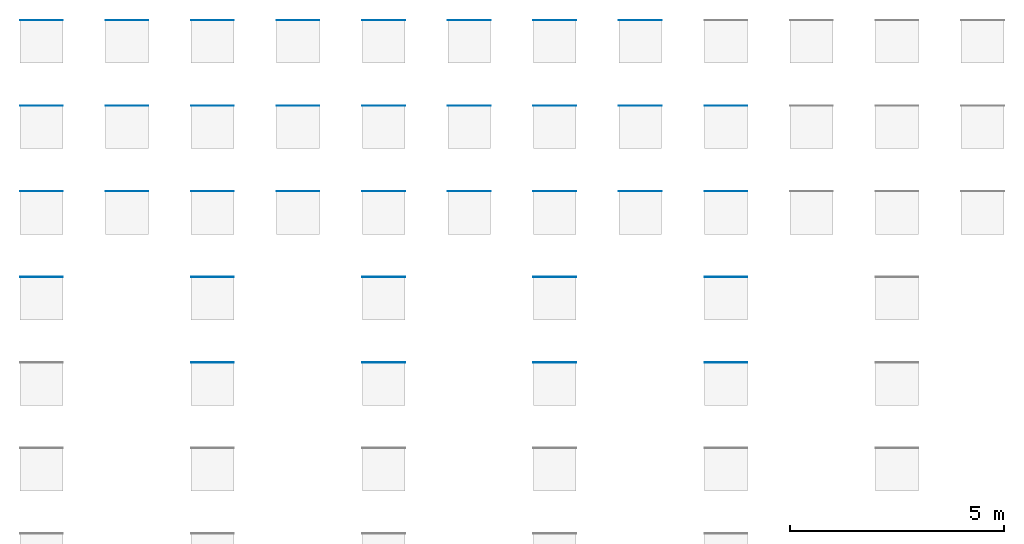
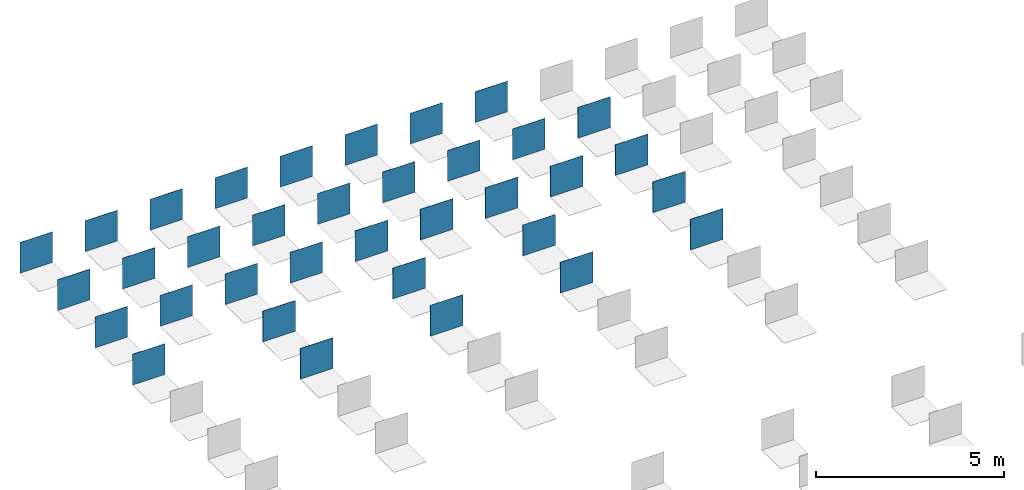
# One storey, part 2 of 6: 35 walls.
"""IFC2X3 building model written with IfcOpenShell, lengths in millimetres."""

from ifc_helpers import new_model, entity, si_unit, converted_unit, derived_unit, direction, frame, frame_2d, origin, place, context, subcontext, project, spatial, rectangle, extrude, material, layer, layer_set, layer_usage, type_object, element, save


model = new_model("IFC2X3")

# Units and contexts
model_context = context("Model", 3, precision=0.01, world=origin(), true_north=direction((6.12303176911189e-17, 1.0)))
body_context = subcontext(model_context, "Body", "Model", "MODEL_VIEW")
ifc_project = project(units=[si_unit("LENGTHUNIT", "METRE", prefix="MILLI"), si_unit("AREAUNIT", "SQUARE_METRE"), si_unit("VOLUMEUNIT", "CUBIC_METRE"), converted_unit("PLANEANGLEUNIT", "DEGREE", entity("IfcRatioMeasure", 0.0174532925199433), si_unit("PLANEANGLEUNIT", "RADIAN"), dimensions=[0, 0, 0, 0, 0, 0, 0]), si_unit("MASSUNIT", "GRAM", prefix="KILO"), derived_unit("MASSDENSITYUNIT", [(si_unit("MASSUNIT", "GRAM", prefix="KILO"), 1), (si_unit("LENGTHUNIT", "METRE"), -3)]), derived_unit("MOMENTOFINERTIAUNIT", [(si_unit("LENGTHUNIT", "METRE"), 4)]), si_unit("TIMEUNIT", "SECOND"), si_unit("FREQUENCYUNIT", "HERTZ"), si_unit("THERMODYNAMICTEMPERATUREUNIT", "DEGREE_CELSIUS"), derived_unit("THERMALTRANSMITTANCEUNIT", [(si_unit("MASSUNIT", "GRAM", prefix="KILO"), 1), (si_unit("THERMODYNAMICTEMPERATUREUNIT", "KELVIN"), -1), (si_unit("TIMEUNIT", "SECOND"), -3)]), derived_unit("VOLUMETRICFLOWRATEUNIT", [(si_unit("LENGTHUNIT", "METRE"), 3), (si_unit("TIMEUNIT", "SECOND"), -1)]), si_unit("ELECTRICCURRENTUNIT", "AMPERE"), si_unit("ELECTRICVOLTAGEUNIT", "VOLT"), si_unit("POWERUNIT", "WATT"), si_unit("FORCEUNIT", "NEWTON", prefix="KILO"), si_unit("ILLUMINANCEUNIT", "LUX"), si_unit("LUMINOUSFLUXUNIT", "LUMEN"), si_unit("LUMINOUSINTENSITYUNIT", "CANDELA"), derived_unit("USERDEFINED", [(si_unit("MASSUNIT", "GRAM", prefix="KILO"), -1), (si_unit("LENGTHUNIT", "METRE"), -2), (si_unit("TIMEUNIT", "SECOND"), 3), (si_unit("LUMINOUSFLUXUNIT", "LUMEN"), 1)]), derived_unit("LINEARVELOCITYUNIT", [(si_unit("LENGTHUNIT", "METRE"), 1), (si_unit("TIMEUNIT", "SECOND"), -1)]), si_unit("PRESSUREUNIT", "PASCAL"), derived_unit("USERDEFINED", [(si_unit("LENGTHUNIT", "METRE"), -2), (si_unit("MASSUNIT", "GRAM", prefix="KILO"), 1), (si_unit("TIMEUNIT", "SECOND"), -2)]), derived_unit("LINEARFORCEUNIT", [(si_unit("MASSUNIT", "GRAM", prefix="KILO"), 1), (si_unit("LENGTHUNIT", "METRE"), 1), (si_unit("TIMEUNIT", "SECOND"), -2), (si_unit("LENGTHUNIT", "METRE"), -1)]), derived_unit("PLANARFORCEUNIT", [(si_unit("MASSUNIT", "GRAM", prefix="KILO"), 1), (si_unit("LENGTHUNIT", "METRE"), 1), (si_unit("TIMEUNIT", "SECOND"), -2), (si_unit("LENGTHUNIT", "METRE"), -2)])], contexts=[model_context])

# Site, building, storey
site_placement = place(None, origin())
site = spatial("IfcSite", under=ifc_project, at=site_placement, Name="Default", CompositionType="ELEMENT")
building_placement = place(site_placement, origin())
building = spatial("IfcBuilding", under=site, at=building_placement, CompositionType="ELEMENT")
storey_placement = place(building_placement, origin())
storey = spatial("IfcBuildingStorey", under=building, at=storey_placement, Name="Level 1", CompositionType="ELEMENT", Elevation=0.0)

# Walls
ifc_material_1 = material(Name="REVIGRÉS-URBAN-BASE-30X30-RECT-ANTRACITE")
ifc_layer_1 = layer(ifc_material_1, 7.7)
ifc_layer_set_1 = layer_set([ifc_layer_1], Name="Basic Wall:REVIGRÉS-URBAN-BASE-29,5X29,5-RECT-ANTRACITE")
ifc_layer_usage_1 = layer_usage(ifc_layer_set_1, "AXIS2", "POSITIVE", -3.85)
wall_type_1 = type_object("IfcWallType", Name="Basic Wall:REVIGRÉS-URBAN-BASE-29,5X29,5-RECT-ANTRACITE", PredefinedType="STANDARD", material=ifc_layer_set_1)
wall_1_placement = place(storey_placement, frame((2778.64271399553, -1188.07420263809, 0.0)))
element("IfcWallStandardCase", 1, at=wall_1_placement, inside=storey, type_object=wall_type_1, material=ifc_layer_usage_1, Name="Basic Wall:REVIGRÉS-URBAN-BASE-29,5X29,5-RECT-ANTRACITE", ObjectType="Basic Wall:REVIGRÉS-URBAN-BASE-29,5X29,5-RECT-ANTRACITE", context=body_context, shape_type="SweptSolid", body=[
    extrude(rectangle(XDim=1000.0, YDim=7.69999999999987, at=frame_2d((500.0, 0.0), x_axis=(-1.0, 0.0))), origin(), (0.0, 0.0, 1.0), 1000.0),
])
ifc_material_2 = material(Name="REVIGRÉS-URBAN-BASE-30X30-NAT-ANTRACITE")
ifc_layer_2 = layer(ifc_material_2, 8.5)
ifc_layer_set_2 = layer_set([ifc_layer_2], Name="Basic Wall:REVIGRÉS-URBAN-BASE-30X30-NAT-ANTRACITE")
ifc_layer_usage_2 = layer_usage(ifc_layer_set_2, "AXIS2", "POSITIVE", -4.25)
wall_type_2 = type_object("IfcWallType", Name="Basic Wall:REVIGRÉS-URBAN-BASE-30X30-NAT-ANTRACITE", PredefinedType="STANDARD", material=ifc_layer_set_2)
wall_2_placement = place(storey_placement, frame((4778.64271399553, -1187.6742026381, 0.0)))
element("IfcWallStandardCase", 2, at=wall_2_placement, inside=storey, type_object=wall_type_2, material=ifc_layer_usage_2, Name="Basic Wall:REVIGRÉS-URBAN-BASE-30X30-NAT-ANTRACITE", ObjectType="Basic Wall:REVIGRÉS-URBAN-BASE-30X30-NAT-ANTRACITE", context=body_context, shape_type="SweptSolid", body=[
    extrude(rectangle(XDim=1000.0, YDim=8.49999999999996, at=frame_2d((500.0, 0.0), x_axis=(-1.0, 0.0))), origin(), (0.0, 0.0, 1.0), 1000.0),
])
ifc_material_3 = material(Name="REVIGRÉS-URBAN-BASE-30X30-RECT-BONE")
ifc_layer_3 = layer(ifc_material_3, 7.7)
ifc_layer_set_3 = layer_set([ifc_layer_3], Name="Basic Wall:REVIGRÉS-URBAN-BASE-29,5X29,5-RECT-BONE")
ifc_layer_usage_3 = layer_usage(ifc_layer_set_3, "AXIS2", "POSITIVE", -3.85)
wall_type_3 = type_object("IfcWallType", Name="Basic Wall:REVIGRÉS-URBAN-BASE-29,5X29,5-RECT-BONE", PredefinedType="STANDARD", material=ifc_layer_set_3)
wall_3_placement = place(storey_placement, frame((6778.64271399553, -1188.07420263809, 0.0)))
element("IfcWallStandardCase", 3, at=wall_3_placement, inside=storey, type_object=wall_type_3, material=ifc_layer_usage_3, Name="Basic Wall:REVIGRÉS-URBAN-BASE-29,5X29,5-RECT-BONE", ObjectType="Basic Wall:REVIGRÉS-URBAN-BASE-29,5X29,5-RECT-BONE", context=body_context, shape_type="SweptSolid", body=[
    extrude(rectangle(XDim=1000.0, YDim=7.69999999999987, at=frame_2d((500.0, 0.0), x_axis=(-1.0, 0.0))), origin(), (0.0, 0.0, 1.0), 1000.0),
])
ifc_material_4 = material(Name="REVIGRÉS-URBAN-BASE-30X30-NAT-BONE")
ifc_layer_4 = layer(ifc_material_4, 8.5)
ifc_layer_set_4 = layer_set([ifc_layer_4], Name="Basic Wall:REVIGRÉS-URBAN-BASE-30X30-NAT-BONE")
ifc_layer_usage_4 = layer_usage(ifc_layer_set_4, "AXIS2", "POSITIVE", -4.25)
wall_type_4 = type_object("IfcWallType", Name="Basic Wall:REVIGRÉS-URBAN-BASE-30X30-NAT-BONE", PredefinedType="STANDARD", material=ifc_layer_set_4)
wall_4_placement = place(storey_placement, frame((8778.64271399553, -1187.67420263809, 0.0)))
element("IfcWallStandardCase", 4, at=wall_4_placement, inside=storey, type_object=wall_type_4, material=ifc_layer_usage_4, Name="Basic Wall:REVIGRÉS-URBAN-BASE-30X30-NAT-BONE", ObjectType="Basic Wall:REVIGRÉS-URBAN-BASE-30X30-NAT-BONE", context=body_context, shape_type="SweptSolid", body=[
    extrude(rectangle(XDim=999.999999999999, YDim=8.49999999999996, at=frame_2d((499.999999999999, 0.0), x_axis=(-1.0, 0.0))), origin(), (0.0, 0.0, 1.0), 1000.0),
])
ifc_material_5 = material(Name="REVIGRÉS-URBAN-BASE-30X30-RECT-CRAFT")
ifc_layer_5 = layer(ifc_material_5, 7.7)
ifc_layer_set_5 = layer_set([ifc_layer_5], Name="Basic Wall:REVIGRÉS-URBAN-BASE-29,5X29,5-RECT-CRAFT")
ifc_layer_usage_5 = layer_usage(ifc_layer_set_5, "AXIS2", "POSITIVE", -3.85)
wall_type_5 = type_object("IfcWallType", Name="Basic Wall:REVIGRÉS-URBAN-BASE-29,5X29,5-RECT-CRAFT", PredefinedType="STANDARD", material=ifc_layer_set_5)
wall_5_placement = place(storey_placement, frame((10778.6427139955, -1188.07420263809, 0.0)))
element("IfcWallStandardCase", 5, at=wall_5_placement, inside=storey, type_object=wall_type_5, material=ifc_layer_usage_5, Name="Basic Wall:REVIGRÉS-URBAN-BASE-29,5X29,5-RECT-CRAFT", ObjectType="Basic Wall:REVIGRÉS-URBAN-BASE-29,5X29,5-RECT-CRAFT", context=body_context, shape_type="SweptSolid", body=[
    extrude(rectangle(XDim=1000.0, YDim=7.69999999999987, at=frame_2d((500.000000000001, 0.0), x_axis=(-1.0, 0.0))), origin(), (0.0, 0.0, 1.0), 1000.0),
])
ifc_material_6 = material(Name="REVIGRÉS-URBAN-BASE-30X30-NAT-CRAFT")
ifc_layer_6 = layer(ifc_material_6, 8.5)
ifc_layer_set_6 = layer_set([ifc_layer_6], Name="Basic Wall:REVIGRÉS-URBAN-BASE-30X30-NAT-CRAFT")
ifc_layer_usage_6 = layer_usage(ifc_layer_set_6, "AXIS2", "POSITIVE", -4.25)
wall_type_6 = type_object("IfcWallType", Name="Basic Wall:REVIGRÉS-URBAN-BASE-30X30-NAT-CRAFT", PredefinedType="STANDARD", material=ifc_layer_set_6)
wall_6_placement = place(storey_placement, frame((12778.6427139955, -1187.67420263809, 0.0)))
element("IfcWallStandardCase", 6, at=wall_6_placement, inside=storey, type_object=wall_type_6, material=ifc_layer_usage_6, Name="Basic Wall:REVIGRÉS-URBAN-BASE-30X30-NAT-CRAFT", ObjectType="Basic Wall:REVIGRÉS-URBAN-BASE-30X30-NAT-CRAFT", context=body_context, shape_type="SweptSolid", body=[
    extrude(rectangle(XDim=1000.0, YDim=8.49999999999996, at=frame_2d((500.0, 0.0), x_axis=(-1.0, 0.0))), origin(), (0.0, 0.0, 1.0), 1000.0),
])
ifc_material_7 = material(Name="REVIGRÉS-URBAN-BASE-30X30-RECT-FOG")
ifc_layer_7 = layer(ifc_material_7, 7.7)
ifc_layer_set_7 = layer_set([ifc_layer_7], Name="Basic Wall:REVIGRÉS-URBAN-BASE-29,5X29,5-RECT-FOG")
ifc_layer_usage_7 = layer_usage(ifc_layer_set_7, "AXIS2", "POSITIVE", -3.85)
wall_type_7 = type_object("IfcWallType", Name="Basic Wall:REVIGRÉS-URBAN-BASE-29,5X29,5-RECT-FOG", PredefinedType="STANDARD", material=ifc_layer_set_7)
wall_7_placement = place(storey_placement, frame((14778.6427139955, -1188.07420263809, 0.0)))
element("IfcWallStandardCase", 7, at=wall_7_placement, inside=storey, type_object=wall_type_7, material=ifc_layer_usage_7, Name="Basic Wall:REVIGRÉS-URBAN-BASE-29,5X29,5-RECT-FOG", ObjectType="Basic Wall:REVIGRÉS-URBAN-BASE-29,5X29,5-RECT-FOG", context=body_context, shape_type="SweptSolid", body=[
    extrude(rectangle(XDim=1000.0, YDim=7.69999999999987, at=frame_2d((500.0, 0.0), x_axis=(-1.0, 0.0))), origin(), (0.0, 0.0, 1.0), 1000.0),
])
ifc_material_8 = material(Name="REVIGRÉS-URBAN-BASE-30X30-NAT-FOG")
ifc_layer_8 = layer(ifc_material_8, 8.5)
ifc_layer_set_8 = layer_set([ifc_layer_8], Name="Basic Wall:REVIGRÉS-URBAN-BASE-30X30-NAT-FOG")
ifc_layer_usage_8 = layer_usage(ifc_layer_set_8, "AXIS2", "POSITIVE", -4.25)
wall_type_8 = type_object("IfcWallType", Name="Basic Wall:REVIGRÉS-URBAN-BASE-30X30-NAT-FOG", PredefinedType="STANDARD", material=ifc_layer_set_8)
wall_8_placement = place(storey_placement, frame((16778.6427139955, -1187.67420263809, 0.0)))
element("IfcWallStandardCase", 8, at=wall_8_placement, inside=storey, type_object=wall_type_8, material=ifc_layer_usage_8, Name="Basic Wall:REVIGRÉS-URBAN-BASE-30X30-NAT-FOG", ObjectType="Basic Wall:REVIGRÉS-URBAN-BASE-30X30-NAT-FOG", context=body_context, shape_type="SweptSolid", body=[
    extrude(rectangle(XDim=1000.0, YDim=8.49999999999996, at=frame_2d((500.0, 0.0), x_axis=(-1.0, 0.0))), origin(), (0.0, 0.0, 1.0), 1000.0),
])
ifc_material_9 = material(Name="REVIGRÉS-URBAN-BASE-30X60-RECT-ANTRACITE")
ifc_layer_9 = layer(ifc_material_9, 8.5)
ifc_layer_set_9 = layer_set([ifc_layer_9], Name="Basic Wall:REVIGRÉS-URBAN-BASE-29,5X59,2-RECT-ANTRACITE")
ifc_layer_usage_9 = layer_usage(ifc_layer_set_9, "AXIS2", "POSITIVE", -4.25)
wall_type_9 = type_object("IfcWallType", Name="Basic Wall:REVIGRÉS-URBAN-BASE-29,5X59,2-RECT-ANTRACITE", PredefinedType="STANDARD", material=ifc_layer_set_9)
wall_9_placement = place(storey_placement, frame((2778.64271399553, -3187.67420263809, 0.0)))
element("IfcWallStandardCase", 9, at=wall_9_placement, inside=storey, type_object=wall_type_9, material=ifc_layer_usage_9, Name="Basic Wall:REVIGRÉS-URBAN-BASE-29,5X59,2-RECT-ANTRACITE", ObjectType="Basic Wall:REVIGRÉS-URBAN-BASE-29,5X59,2-RECT-ANTRACITE", context=body_context, shape_type="SweptSolid", body=[
    extrude(rectangle(XDim=1000.0, YDim=8.50000000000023, at=frame_2d((500.0, 0.0), x_axis=(-1.0, 0.0))), origin(), (0.0, 0.0, 1.0), 1000.0),
])
ifc_material_10 = material(Name="REVIGRÉS-URBAN-BASE-30X60-RECT-BONE")
ifc_layer_10 = layer(ifc_material_10, 8.5)
ifc_layer_set_10 = layer_set([ifc_layer_10], Name="Basic Wall:REVIGRÉS-URBAN-BASE-29,5X59,2-RECT-BONE")
ifc_layer_usage_10 = layer_usage(ifc_layer_set_10, "AXIS2", "POSITIVE", -4.25)
wall_type_10 = type_object("IfcWallType", Name="Basic Wall:REVIGRÉS-URBAN-BASE-29,5X59,2-RECT-BONE", PredefinedType="STANDARD", material=ifc_layer_set_10)
wall_10_placement = place(storey_placement, frame((6778.64271399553, -3187.67420263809, 0.0)))
element("IfcWallStandardCase", 10, at=wall_10_placement, inside=storey, type_object=wall_type_10, material=ifc_layer_usage_10, Name="Basic Wall:REVIGRÉS-URBAN-BASE-29,5X59,2-RECT-BONE", ObjectType="Basic Wall:REVIGRÉS-URBAN-BASE-29,5X59,2-RECT-BONE", context=body_context, shape_type="SweptSolid", body=[
    extrude(rectangle(XDim=1000.0, YDim=8.50000000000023, at=frame_2d((500.0, 0.0), x_axis=(-1.0, 0.0))), origin(), (0.0, 0.0, 1.0), 1000.0),
])
ifc_material_11 = material(Name="REVIGRÉS-URBAN-BASE-30X60-RECT-CRAFT")
ifc_layer_11 = layer(ifc_material_11, 8.5)
ifc_layer_set_11 = layer_set([ifc_layer_11], Name="Basic Wall:REVIGRÉS-URBAN-BASE-29,5X59,2-RECT-CRAFT")
ifc_layer_usage_11 = layer_usage(ifc_layer_set_11, "AXIS2", "POSITIVE", -4.25)
wall_type_11 = type_object("IfcWallType", Name="Basic Wall:REVIGRÉS-URBAN-BASE-29,5X59,2-RECT-CRAFT", PredefinedType="STANDARD", material=ifc_layer_set_11)
wall_11_placement = place(storey_placement, frame((10778.6427139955, -3187.67420263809, 0.0)))
element("IfcWallStandardCase", 11, at=wall_11_placement, inside=storey, type_object=wall_type_11, material=ifc_layer_usage_11, Name="Basic Wall:REVIGRÉS-URBAN-BASE-29,5X59,2-RECT-CRAFT", ObjectType="Basic Wall:REVIGRÉS-URBAN-BASE-29,5X59,2-RECT-CRAFT", context=body_context, shape_type="SweptSolid", body=[
    extrude(rectangle(XDim=1000.0, YDim=8.50000000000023, at=frame_2d((500.000000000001, 0.0), x_axis=(-1.0, 0.0))), origin(), (0.0, 0.0, 1.0), 1000.0),
])
ifc_material_12 = material(Name="REVIGRÉS-URBAN-BASE-30X60-RECT-FOG")
ifc_layer_12 = layer(ifc_material_12, 8.5)
ifc_layer_set_12 = layer_set([ifc_layer_12], Name="Basic Wall:REVIGRÉS-URBAN-BASE-29,5X59,2-RECT-FOG")
ifc_layer_usage_12 = layer_usage(ifc_layer_set_12, "AXIS2", "POSITIVE", -4.25)
wall_type_12 = type_object("IfcWallType", Name="Basic Wall:REVIGRÉS-URBAN-BASE-29,5X59,2-RECT-FOG", PredefinedType="STANDARD", material=ifc_layer_set_12)
wall_12_placement = place(storey_placement, frame((14778.6427139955, -3187.67420263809, 0.0)))
element("IfcWallStandardCase", 12, at=wall_12_placement, inside=storey, type_object=wall_type_12, material=ifc_layer_usage_12, Name="Basic Wall:REVIGRÉS-URBAN-BASE-29,5X59,2-RECT-FOG", ObjectType="Basic Wall:REVIGRÉS-URBAN-BASE-29,5X59,2-RECT-FOG", context=body_context, shape_type="SweptSolid", body=[
    extrude(rectangle(XDim=1000.0, YDim=8.50000000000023, at=frame_2d((500.0, 0.0), x_axis=(-1.0, 0.0))), origin(), (0.0, 0.0, 1.0), 1000.0),
])
ifc_material_13 = material(Name="REVIGRÉS-URBAN-BASE-30X60-RECT-GRIS")
ifc_layer_13 = layer(ifc_material_13, 8.5)
ifc_layer_set_13 = layer_set([ifc_layer_13], Name="Basic Wall:REVIGRÉS-URBAN-BASE-29,5X59,2-RECT-GRIS")
ifc_layer_usage_13 = layer_usage(ifc_layer_set_13, "AXIS2", "POSITIVE", -4.25)
wall_type_13 = type_object("IfcWallType", Name="Basic Wall:REVIGRÉS-URBAN-BASE-29,5X59,2-RECT-GRIS", PredefinedType="STANDARD", material=ifc_layer_set_13)
wall_13_placement = place(storey_placement, frame((18778.6427139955, -3187.67420263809, 0.0)))
element("IfcWallStandardCase", 13, at=wall_13_placement, inside=storey, type_object=wall_type_13, material=ifc_layer_usage_13, Name="Basic Wall:REVIGRÉS-URBAN-BASE-29,5X59,2-RECT-GRIS", ObjectType="Basic Wall:REVIGRÉS-URBAN-BASE-29,5X59,2-RECT-GRIS", context=body_context, shape_type="SweptSolid", body=[
    extrude(rectangle(XDim=1000.0, YDim=8.50000000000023, at=frame_2d((500.0, 0.0), x_axis=(-1.0, 0.0))), origin(), (0.0, 0.0, 1.0), 1000.0),
])
ifc_material_14 = material(Name="REVIGRÉS-URBAN-BASE-45X45-RECT-ANTRACITE")
ifc_layer_14 = layer(ifc_material_14, 8.5)
ifc_layer_set_14 = layer_set([ifc_layer_14], Name="Basic Wall:REVIGRÉS-URBAN-BASE-44,35X44,35-RECT-ANTRACITE")
ifc_layer_usage_14 = layer_usage(ifc_layer_set_14, "AXIS2", "POSITIVE", -4.25)
wall_type_14 = type_object("IfcWallType", Name="Basic Wall:REVIGRÉS-URBAN-BASE-44,35X44,35-RECT-ANTRACITE", PredefinedType="STANDARD", material=ifc_layer_set_14)
wall_14_placement = place(storey_placement, frame((2778.64271399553, -5187.67420263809, 0.0)))
element("IfcWallStandardCase", 14, at=wall_14_placement, inside=storey, type_object=wall_type_14, material=ifc_layer_usage_14, Name="Basic Wall:REVIGRÉS-URBAN-BASE-44,35X44,35-RECT-ANTRACITE", ObjectType="Basic Wall:REVIGRÉS-URBAN-BASE-44,35X44,35-RECT-ANTRACITE", context=body_context, shape_type="SweptSolid", body=[
    extrude(rectangle(XDim=1000.0, YDim=8.50000000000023, at=frame_2d((500.0, 0.0), x_axis=(-1.0, 0.0))), origin(), (0.0, 0.0, 1.0), 1000.0),
])
ifc_material_15 = material(Name="REVIGRÉS-URBAN-BASE-45X45-NAT-ANTRACITE")
ifc_layer_15 = layer(ifc_material_15, 8.5)
ifc_layer_set_15 = layer_set([ifc_layer_15], Name="Basic Wall:REVIGRÉS-URBAN-BASE-45X45-NAT-ANTRACITE")
ifc_layer_usage_15 = layer_usage(ifc_layer_set_15, "AXIS2", "POSITIVE", -4.25)
wall_type_15 = type_object("IfcWallType", Name="Basic Wall:REVIGRÉS-URBAN-BASE-45X45-NAT-ANTRACITE", PredefinedType="STANDARD", material=ifc_layer_set_15)
wall_15_placement = place(storey_placement, frame((4778.64271399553, -5187.6742026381, 0.0)))
element("IfcWallStandardCase", 15, at=wall_15_placement, inside=storey, type_object=wall_type_15, material=ifc_layer_usage_15, Name="Basic Wall:REVIGRÉS-URBAN-BASE-45X45-NAT-ANTRACITE", ObjectType="Basic Wall:REVIGRÉS-URBAN-BASE-45X45-NAT-ANTRACITE", context=body_context, shape_type="SweptSolid", body=[
    extrude(rectangle(XDim=1000.0, YDim=8.50000000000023, at=frame_2d((500.0, 0.0), x_axis=(-1.0, 0.0))), origin(), (0.0, 0.0, 1.0), 1000.0),
])
ifc_material_16 = material(Name="REVIGRÉS-URBAN-BASE-45X45-RECT-BONE")
ifc_layer_16 = layer(ifc_material_16, 8.5)
ifc_layer_set_16 = layer_set([ifc_layer_16], Name="Basic Wall:REVIGRÉS-URBAN-BASE-44,35X44,35-RECT-BONE")
ifc_layer_usage_16 = layer_usage(ifc_layer_set_16, "AXIS2", "POSITIVE", -4.25)
wall_type_16 = type_object("IfcWallType", Name="Basic Wall:REVIGRÉS-URBAN-BASE-44,35X44,35-RECT-BONE", PredefinedType="STANDARD", material=ifc_layer_set_16)
wall_16_placement = place(storey_placement, frame((6778.64271399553, -5187.67420263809, 0.0)))
element("IfcWallStandardCase", 16, at=wall_16_placement, inside=storey, type_object=wall_type_16, material=ifc_layer_usage_16, Name="Basic Wall:REVIGRÉS-URBAN-BASE-44,35X44,35-RECT-BONE", ObjectType="Basic Wall:REVIGRÉS-URBAN-BASE-44,35X44,35-RECT-BONE", context=body_context, shape_type="SweptSolid", body=[
    extrude(rectangle(XDim=1000.0, YDim=8.50000000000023, at=frame_2d((500.0, 0.0), x_axis=(-1.0, 0.0))), origin(), (0.0, 0.0, 1.0), 1000.0),
])
ifc_material_17 = material(Name="REVIGRÉS-URBAN-BASE-45X45-NAT-BONE")
ifc_layer_17 = layer(ifc_material_17, 8.5)
ifc_layer_set_17 = layer_set([ifc_layer_17], Name="Basic Wall:REVIGRÉS-URBAN-BASE-45X45-NAT-BONE")
ifc_layer_usage_17 = layer_usage(ifc_layer_set_17, "AXIS2", "POSITIVE", -4.25)
wall_type_17 = type_object("IfcWallType", Name="Basic Wall:REVIGRÉS-URBAN-BASE-45X45-NAT-BONE", PredefinedType="STANDARD", material=ifc_layer_set_17)
wall_17_placement = place(storey_placement, frame((8778.64271399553, -5187.67420263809, 0.0)))
element("IfcWallStandardCase", 17, at=wall_17_placement, inside=storey, type_object=wall_type_17, material=ifc_layer_usage_17, Name="Basic Wall:REVIGRÉS-URBAN-BASE-45X45-NAT-BONE", ObjectType="Basic Wall:REVIGRÉS-URBAN-BASE-45X45-NAT-BONE", context=body_context, shape_type="SweptSolid", body=[
    extrude(rectangle(XDim=999.999999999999, YDim=8.50000000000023, at=frame_2d((499.999999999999, 0.0), x_axis=(-1.0, 0.0))), origin(), (0.0, 0.0, 1.0), 1000.0),
])
ifc_material_18 = material(Name="REVIGRÉS-URBAN-BASE-45X45-RECT-CRAFT")
ifc_layer_18 = layer(ifc_material_18, 8.5)
ifc_layer_set_18 = layer_set([ifc_layer_18], Name="Basic Wall:REVIGRÉS-URBAN-BASE-44,35X44,35-RECT-CRAFT")
ifc_layer_usage_18 = layer_usage(ifc_layer_set_18, "AXIS2", "POSITIVE", -4.25)
wall_type_18 = type_object("IfcWallType", Name="Basic Wall:REVIGRÉS-URBAN-BASE-44,35X44,35-RECT-CRAFT", PredefinedType="STANDARD", material=ifc_layer_set_18)
wall_18_placement = place(storey_placement, frame((10778.6427139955, -5187.67420263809, 0.0)))
element("IfcWallStandardCase", 18, at=wall_18_placement, inside=storey, type_object=wall_type_18, material=ifc_layer_usage_18, Name="Basic Wall:REVIGRÉS-URBAN-BASE-44,35X44,35-RECT-CRAFT", ObjectType="Basic Wall:REVIGRÉS-URBAN-BASE-44,35X44,35-RECT-CRAFT", context=body_context, shape_type="SweptSolid", body=[
    extrude(rectangle(XDim=1000.0, YDim=8.50000000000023, at=frame_2d((500.000000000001, 0.0), x_axis=(-1.0, 0.0))), origin(), (0.0, 0.0, 1.0), 1000.0),
])
ifc_material_19 = material(Name="REVIGRÉS-URBAN-BASE-45X45-NAT-CRAFT")
ifc_layer_19 = layer(ifc_material_19, 8.5)
ifc_layer_set_19 = layer_set([ifc_layer_19], Name="Basic Wall:REVIGRÉS-URBAN-BASE-45X45-NAT-CRAFT")
ifc_layer_usage_19 = layer_usage(ifc_layer_set_19, "AXIS2", "POSITIVE", -4.25)
wall_type_19 = type_object("IfcWallType", Name="Basic Wall:REVIGRÉS-URBAN-BASE-45X45-NAT-CRAFT", PredefinedType="STANDARD", material=ifc_layer_set_19)
wall_19_placement = place(storey_placement, frame((12778.6427139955, -5187.67420263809, 0.0)))
element("IfcWallStandardCase", 19, at=wall_19_placement, inside=storey, type_object=wall_type_19, material=ifc_layer_usage_19, Name="Basic Wall:REVIGRÉS-URBAN-BASE-45X45-NAT-CRAFT", ObjectType="Basic Wall:REVIGRÉS-URBAN-BASE-45X45-NAT-CRAFT", context=body_context, shape_type="SweptSolid", body=[
    extrude(rectangle(XDim=1000.0, YDim=8.50000000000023, at=frame_2d((500.0, 0.0), x_axis=(-1.0, 0.0))), origin(), (0.0, 0.0, 1.0), 1000.0),
])
ifc_material_20 = material(Name="REVIGRÉS-URBAN-BASE-45X45-RECT-FOG")
ifc_layer_20 = layer(ifc_material_20, 8.5)
ifc_layer_set_20 = layer_set([ifc_layer_20], Name="Basic Wall:REVIGRÉS-URBAN-BASE-44,35X44,35-RECT-FOG")
ifc_layer_usage_20 = layer_usage(ifc_layer_set_20, "AXIS2", "POSITIVE", -4.25)
wall_type_20 = type_object("IfcWallType", Name="Basic Wall:REVIGRÉS-URBAN-BASE-44,35X44,35-RECT-FOG", PredefinedType="STANDARD", material=ifc_layer_set_20)
wall_20_placement = place(storey_placement, frame((14778.6427139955, -5187.67420263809, 0.0)))
element("IfcWallStandardCase", 20, at=wall_20_placement, inside=storey, type_object=wall_type_20, material=ifc_layer_usage_20, Name="Basic Wall:REVIGRÉS-URBAN-BASE-44,35X44,35-RECT-FOG", ObjectType="Basic Wall:REVIGRÉS-URBAN-BASE-44,35X44,35-RECT-FOG", context=body_context, shape_type="SweptSolid", body=[
    extrude(rectangle(XDim=1000.0, YDim=8.50000000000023, at=frame_2d((500.0, 0.0), x_axis=(-1.0, 0.0))), origin(), (0.0, 0.0, 1.0), 1000.0),
])
ifc_material_21 = material(Name="REVIGRÉS-URBAN-BASE-45X45-NAT-FOG")
ifc_layer_21 = layer(ifc_material_21, 8.5)
ifc_layer_set_21 = layer_set([ifc_layer_21], Name="Basic Wall:REVIGRÉS-URBAN-BASE-45X45-NAT-FOG")
ifc_layer_usage_21 = layer_usage(ifc_layer_set_21, "AXIS2", "POSITIVE", -4.25)
wall_type_21 = type_object("IfcWallType", Name="Basic Wall:REVIGRÉS-URBAN-BASE-45X45-NAT-FOG", PredefinedType="STANDARD", material=ifc_layer_set_21)
wall_21_placement = place(storey_placement, frame((16778.6427139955, -5187.67420263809, 0.0)))
element("IfcWallStandardCase", 21, at=wall_21_placement, inside=storey, type_object=wall_type_21, material=ifc_layer_usage_21, Name="Basic Wall:REVIGRÉS-URBAN-BASE-45X45-NAT-FOG", ObjectType="Basic Wall:REVIGRÉS-URBAN-BASE-45X45-NAT-FOG", context=body_context, shape_type="SweptSolid", body=[
    extrude(rectangle(XDim=1000.0, YDim=8.50000000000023, at=frame_2d((500.0, 0.0), x_axis=(-1.0, 0.0))), origin(), (0.0, 0.0, 1.0), 1000.0),
])
ifc_material_22 = material(Name="REVIGRÉS-URBAN-BASE-45X45-RECT-GRIS")
ifc_layer_22 = layer(ifc_material_22, 8.5)
ifc_layer_set_22 = layer_set([ifc_layer_22], Name="Basic Wall:REVIGRÉS-URBAN-BASE-44,35X44,35-RECT-GRIS")
ifc_layer_usage_22 = layer_usage(ifc_layer_set_22, "AXIS2", "POSITIVE", -4.25)
wall_type_22 = type_object("IfcWallType", Name="Basic Wall:REVIGRÉS-URBAN-BASE-44,35X44,35-RECT-GRIS", PredefinedType="STANDARD", material=ifc_layer_set_22)
wall_22_placement = place(storey_placement, frame((18778.6427139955, -5187.67420263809, 0.0)))
element("IfcWallStandardCase", 22, at=wall_22_placement, inside=storey, type_object=wall_type_22, material=ifc_layer_usage_22, Name="Basic Wall:REVIGRÉS-URBAN-BASE-44,35X44,35-RECT-GRIS", ObjectType="Basic Wall:REVIGRÉS-URBAN-BASE-44,35X44,35-RECT-GRIS", context=body_context, shape_type="SweptSolid", body=[
    extrude(rectangle(XDim=1000.0, YDim=8.50000000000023, at=frame_2d((500.0, 0.0), x_axis=(-1.0, 0.0))), origin(), (0.0, 0.0, 1.0), 1000.0),
])
ifc_material_23 = material(Name="REVIGRÉS-URBAN-BASE-45X90-RECT-ANTRACITE")
ifc_layer_23 = layer(ifc_material_23, 10.5)
ifc_layer_set_23 = layer_set([ifc_layer_23], Name="Basic Wall:REVIGRÉS-URBAN-BASE-44,35X88,9-RECT-ANTRACITE")
ifc_layer_usage_23 = layer_usage(ifc_layer_set_23, "AXIS2", "POSITIVE", -5.25)
wall_type_23 = type_object("IfcWallType", Name="Basic Wall:REVIGRÉS-URBAN-BASE-44,35X88,9-RECT-ANTRACITE", PredefinedType="STANDARD", material=ifc_layer_set_23)
wall_23_placement = place(storey_placement, frame((2778.64271399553, -7186.67420263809, 0.0)))
element("IfcWallStandardCase", 23, at=wall_23_placement, inside=storey, type_object=wall_type_23, material=ifc_layer_usage_23, Name="Basic Wall:REVIGRÉS-URBAN-BASE-44,35X88,9-RECT-ANTRACITE", ObjectType="Basic Wall:REVIGRÉS-URBAN-BASE-44,35X88,9-RECT-ANTRACITE", context=body_context, shape_type="SweptSolid", body=[
    extrude(rectangle(XDim=1000.0, YDim=10.4999999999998, at=frame_2d((500.0, 0.0), x_axis=(-1.0, 0.0))), origin(), (0.0, 0.0, 1.0), 1000.0),
])
ifc_material_24 = material(Name="REVIGRÉS-URBAN-BASE-45X90-RECT-BONE")
ifc_layer_24 = layer(ifc_material_24, 10.5)
ifc_layer_set_24 = layer_set([ifc_layer_24], Name="Basic Wall:REVIGRÉS-URBAN-BASE-44,35X88,9-RECT-BONE")
ifc_layer_usage_24 = layer_usage(ifc_layer_set_24, "AXIS2", "POSITIVE", -5.25)
wall_type_24 = type_object("IfcWallType", Name="Basic Wall:REVIGRÉS-URBAN-BASE-44,35X88,9-RECT-BONE", PredefinedType="STANDARD", material=ifc_layer_set_24)
wall_24_placement = place(storey_placement, frame((6778.64271399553, -7186.67420263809, 0.0)))
element("IfcWallStandardCase", 24, at=wall_24_placement, inside=storey, type_object=wall_type_24, material=ifc_layer_usage_24, Name="Basic Wall:REVIGRÉS-URBAN-BASE-44,35X88,9-RECT-BONE", ObjectType="Basic Wall:REVIGRÉS-URBAN-BASE-44,35X88,9-RECT-BONE", context=body_context, shape_type="SweptSolid", body=[
    extrude(rectangle(XDim=1000.0, YDim=10.4999999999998, at=frame_2d((500.0, 0.0), x_axis=(-1.0, 0.0))), origin(), (0.0, 0.0, 1.0), 1000.0),
])
ifc_material_25 = material(Name="REVIGRÉS-URBAN-BASE-45X90-RECT-CRAFT")
ifc_layer_25 = layer(ifc_material_25, 10.5)
ifc_layer_set_25 = layer_set([ifc_layer_25], Name="Basic Wall:REVIGRÉS-URBAN-BASE-44,35X88,9-RECT-CRAFT")
ifc_layer_usage_25 = layer_usage(ifc_layer_set_25, "AXIS2", "POSITIVE", -5.25)
wall_type_25 = type_object("IfcWallType", Name="Basic Wall:REVIGRÉS-URBAN-BASE-44,35X88,9-RECT-CRAFT", PredefinedType="STANDARD", material=ifc_layer_set_25)
wall_25_placement = place(storey_placement, frame((10778.6427139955, -7186.67420263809, 0.0)))
element("IfcWallStandardCase", 25, at=wall_25_placement, inside=storey, type_object=wall_type_25, material=ifc_layer_usage_25, Name="Basic Wall:REVIGRÉS-URBAN-BASE-44,35X88,9-RECT-CRAFT", ObjectType="Basic Wall:REVIGRÉS-URBAN-BASE-44,35X88,9-RECT-CRAFT", context=body_context, shape_type="SweptSolid", body=[
    extrude(rectangle(XDim=1000.0, YDim=10.4999999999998, at=frame_2d((500.000000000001, 0.0), x_axis=(-1.0, 0.0))), origin(), (0.0, 0.0, 1.0), 1000.0),
])
ifc_material_26 = material(Name="REVIGRÉS-URBAN-BASE-45X90-RECT-FOG")
ifc_layer_26 = layer(ifc_material_26, 10.5)
ifc_layer_set_26 = layer_set([ifc_layer_26], Name="Basic Wall:REVIGRÉS-URBAN-BASE-44,35X88,9-RECT-FOG")
ifc_layer_usage_26 = layer_usage(ifc_layer_set_26, "AXIS2", "POSITIVE", -5.25)
wall_type_26 = type_object("IfcWallType", Name="Basic Wall:REVIGRÉS-URBAN-BASE-44,35X88,9-RECT-FOG", PredefinedType="STANDARD", material=ifc_layer_set_26)
wall_26_placement = place(storey_placement, frame((14778.6427139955, -7186.67420263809, 0.0)))
element("IfcWallStandardCase", 26, at=wall_26_placement, inside=storey, type_object=wall_type_26, material=ifc_layer_usage_26, Name="Basic Wall:REVIGRÉS-URBAN-BASE-44,35X88,9-RECT-FOG", ObjectType="Basic Wall:REVIGRÉS-URBAN-BASE-44,35X88,9-RECT-FOG", context=body_context, shape_type="SweptSolid", body=[
    extrude(rectangle(XDim=1000.0, YDim=10.4999999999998, at=frame_2d((500.0, 0.0), x_axis=(-1.0, 0.0))), origin(), (0.0, 0.0, 1.0), 1000.0),
])
ifc_material_27 = material(Name="REVIGRÉS-URBAN-BASE-45X90-RECT-GRIS")
ifc_layer_27 = layer(ifc_material_27, 10.5)
ifc_layer_set_27 = layer_set([ifc_layer_27], Name="Basic Wall:REVIGRÉS-URBAN-BASE-44,35X88,9-RECT-GRIS")
ifc_layer_usage_27 = layer_usage(ifc_layer_set_27, "AXIS2", "POSITIVE", -5.25)
wall_type_27 = type_object("IfcWallType", Name="Basic Wall:REVIGRÉS-URBAN-BASE-44,35X88,9-RECT-GRIS", PredefinedType="STANDARD", material=ifc_layer_set_27)
wall_27_placement = place(storey_placement, frame((18778.6427139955, -7186.67420263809, 0.0)))
element("IfcWallStandardCase", 27, at=wall_27_placement, inside=storey, type_object=wall_type_27, material=ifc_layer_usage_27, Name="Basic Wall:REVIGRÉS-URBAN-BASE-44,35X88,9-RECT-GRIS", ObjectType="Basic Wall:REVIGRÉS-URBAN-BASE-44,35X88,9-RECT-GRIS", context=body_context, shape_type="SweptSolid", body=[
    extrude(rectangle(XDim=1000.0, YDim=10.4999999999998, at=frame_2d((500.0, 0.0), x_axis=(-1.0, 0.0))), origin(), (0.0, 0.0, 1.0), 1000.0),
])
ifc_material_28 = material(Name="REVIGRÉS-URBAN-BASE-60X60-RECT-BONE")
ifc_layer_28 = layer(ifc_material_28, 10.5)
ifc_layer_set_28 = layer_set([ifc_layer_28], Name="Basic Wall:REVIGRÉS-URBAN-BASE-59,2X59,2-RECT-BONE")
ifc_layer_usage_28 = layer_usage(ifc_layer_set_28, "AXIS2", "POSITIVE", -5.25)
wall_type_28 = type_object("IfcWallType", Name="Basic Wall:REVIGRÉS-URBAN-BASE-59,2X59,2-RECT-BONE", PredefinedType="STANDARD", material=ifc_layer_set_28)
wall_28_placement = place(storey_placement, frame((6778.64271399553, -9186.67420263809, 0.0)))
element("IfcWallStandardCase", 28, at=wall_28_placement, inside=storey, type_object=wall_type_28, material=ifc_layer_usage_28, Name="Basic Wall:REVIGRÉS-URBAN-BASE-59,2X59,2-RECT-BONE", ObjectType="Basic Wall:REVIGRÉS-URBAN-BASE-59,2X59,2-RECT-BONE", context=body_context, shape_type="SweptSolid", body=[
    extrude(rectangle(XDim=1000.0, YDim=10.4999999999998, at=frame_2d((500.0, 0.0), x_axis=(-1.0, 0.0))), origin(), (0.0, 0.0, 1.0), 1000.0),
])
ifc_material_29 = material(Name="REVIGRÉS-URBAN-BASE-60X60-RECT-CRAFT")
ifc_layer_29 = layer(ifc_material_29, 10.5)
ifc_layer_set_29 = layer_set([ifc_layer_29], Name="Basic Wall:REVIGRÉS-URBAN-BASE-59,2X59,2-RECT-CRAFT")
ifc_layer_usage_29 = layer_usage(ifc_layer_set_29, "AXIS2", "POSITIVE", -5.25)
wall_type_29 = type_object("IfcWallType", Name="Basic Wall:REVIGRÉS-URBAN-BASE-59,2X59,2-RECT-CRAFT", PredefinedType="STANDARD", material=ifc_layer_set_29)
wall_29_placement = place(storey_placement, frame((10778.6427139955, -9186.67420263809, 0.0)))
element("IfcWallStandardCase", 29, at=wall_29_placement, inside=storey, type_object=wall_type_29, material=ifc_layer_usage_29, Name="Basic Wall:REVIGRÉS-URBAN-BASE-59,2X59,2-RECT-CRAFT", ObjectType="Basic Wall:REVIGRÉS-URBAN-BASE-59,2X59,2-RECT-CRAFT", context=body_context, shape_type="SweptSolid", body=[
    extrude(rectangle(XDim=1000.0, YDim=10.4999999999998, at=frame_2d((500.000000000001, 0.0), x_axis=(-1.0, 0.0))), origin(), (0.0, 0.0, 1.0), 1000.0),
])
ifc_material_30 = material(Name="REVIGRÉS-URBAN-BASE-60X60-RECT-FOG")
ifc_layer_30 = layer(ifc_material_30, 10.5)
ifc_layer_set_30 = layer_set([ifc_layer_30], Name="Basic Wall:REVIGRÉS-URBAN-BASE-59,2X59,2-RECT-FOG")
ifc_layer_usage_30 = layer_usage(ifc_layer_set_30, "AXIS2", "POSITIVE", -5.25)
wall_type_30 = type_object("IfcWallType", Name="Basic Wall:REVIGRÉS-URBAN-BASE-59,2X59,2-RECT-FOG", PredefinedType="STANDARD", material=ifc_layer_set_30)
wall_30_placement = place(storey_placement, frame((14778.6427139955, -9186.67420263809, 0.0)))
element("IfcWallStandardCase", 30, at=wall_30_placement, inside=storey, type_object=wall_type_30, material=ifc_layer_usage_30, Name="Basic Wall:REVIGRÉS-URBAN-BASE-59,2X59,2-RECT-FOG", ObjectType="Basic Wall:REVIGRÉS-URBAN-BASE-59,2X59,2-RECT-FOG", context=body_context, shape_type="SweptSolid", body=[
    extrude(rectangle(XDim=1000.0, YDim=10.4999999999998, at=frame_2d((500.0, 0.0), x_axis=(-1.0, 0.0))), origin(), (0.0, 0.0, 1.0), 1000.0),
])
ifc_material_31 = material(Name="REVIGRÉS-URBAN-BASE-60X60-RECT-GRIS")
ifc_layer_31 = layer(ifc_material_31, 10.5)
ifc_layer_set_31 = layer_set([ifc_layer_31], Name="Basic Wall:REVIGRÉS-URBAN-BASE-59,2X59,2-RECT-GRIS")
ifc_layer_usage_31 = layer_usage(ifc_layer_set_31, "AXIS2", "POSITIVE", -5.25)
wall_type_31 = type_object("IfcWallType", Name="Basic Wall:REVIGRÉS-URBAN-BASE-59,2X59,2-RECT-GRIS", PredefinedType="STANDARD", material=ifc_layer_set_31)
wall_31_placement = place(storey_placement, frame((18778.6427139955, -9186.67420263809, 0.0)))
element("IfcWallStandardCase", 31, at=wall_31_placement, inside=storey, type_object=wall_type_31, material=ifc_layer_usage_31, Name="Basic Wall:REVIGRÉS-URBAN-BASE-59,2X59,2-RECT-GRIS", ObjectType="Basic Wall:REVIGRÉS-URBAN-BASE-59,2X59,2-RECT-GRIS", context=body_context, shape_type="SweptSolid", body=[
    extrude(rectangle(XDim=1000.0, YDim=10.4999999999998, at=frame_2d((500.0, 0.0), x_axis=(-1.0, 0.0))), origin(), (0.0, 0.0, 1.0), 1000.0),
])
ifc_material_32 = material(Name="REVIGRÉS-URBAN-BASE-30X60-NAT-ANTRACITE")
ifc_layer_32 = layer(ifc_material_32, 8.5)
ifc_layer_set_32 = layer_set([ifc_layer_32], Name="Basic Wall:REVIGRÉS-URBAN-BASE-30X60-NAT-ANTRACITE")
ifc_layer_usage_32 = layer_usage(ifc_layer_set_32, "AXIS2", "POSITIVE", -4.25)
wall_type_32 = type_object("IfcWallType", Name="Basic Wall:REVIGRÉS-URBAN-BASE-30X60-NAT-ANTRACITE", PredefinedType="STANDARD", material=ifc_layer_set_32)
wall_32_placement = place(storey_placement, frame((4778.64271399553, -3187.6742026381, 0.0)))
element("IfcWallStandardCase", 32, at=wall_32_placement, inside=storey, type_object=wall_type_32, material=ifc_layer_usage_32, Name="Basic Wall:REVIGRÉS-URBAN-BASE-30X60-NAT-ANTRACITE", ObjectType="Basic Wall:REVIGRÉS-URBAN-BASE-30X60-NAT-ANTRACITE", context=body_context, shape_type="SweptSolid", body=[
    extrude(rectangle(XDim=1000.0, YDim=8.50000000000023, at=frame_2d((500.0, 0.0), x_axis=(-1.0, 0.0))), origin(), (0.0, 0.0, 1.0), 1000.0),
])
ifc_material_33 = material(Name="REVIGRÉS-URBAN-BASE-30X60-NAT-BONE")
ifc_layer_33 = layer(ifc_material_33, 8.5)
ifc_layer_set_33 = layer_set([ifc_layer_33], Name="Basic Wall:REVIGRÉS-URBAN-BASE-30X60-NAT-BONE")
ifc_layer_usage_33 = layer_usage(ifc_layer_set_33, "AXIS2", "POSITIVE", -4.25)
wall_type_33 = type_object("IfcWallType", Name="Basic Wall:REVIGRÉS-URBAN-BASE-30X60-NAT-BONE", PredefinedType="STANDARD", material=ifc_layer_set_33)
wall_33_placement = place(storey_placement, frame((8778.64271399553, -3187.6742026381, 0.0)))
element("IfcWallStandardCase", 33, at=wall_33_placement, inside=storey, type_object=wall_type_33, material=ifc_layer_usage_33, Name="Basic Wall:REVIGRÉS-URBAN-BASE-30X60-NAT-BONE", ObjectType="Basic Wall:REVIGRÉS-URBAN-BASE-30X60-NAT-BONE", context=body_context, shape_type="SweptSolid", body=[
    extrude(rectangle(XDim=1000.0, YDim=8.50000000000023, at=frame_2d((500.000000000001, 0.0), x_axis=(-1.0, 0.0))), origin(), (0.0, 0.0, 1.0), 1000.0),
])
ifc_material_34 = material(Name="REVIGRÉS-URBAN-BASE-30X60-NAT-CRAFT")
ifc_layer_34 = layer(ifc_material_34, 8.5)
ifc_layer_set_34 = layer_set([ifc_layer_34], Name="Basic Wall:REVIGRÉS-URBAN-BASE-30X60-NAT-CRAFT")
ifc_layer_usage_34 = layer_usage(ifc_layer_set_34, "AXIS2", "POSITIVE", -4.25)
wall_type_34 = type_object("IfcWallType", Name="Basic Wall:REVIGRÉS-URBAN-BASE-30X60-NAT-CRAFT", PredefinedType="STANDARD", material=ifc_layer_set_34)
wall_34_placement = place(storey_placement, frame((12778.6427139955, -3187.6742026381, 0.0)))
element("IfcWallStandardCase", 34, at=wall_34_placement, inside=storey, type_object=wall_type_34, material=ifc_layer_usage_34, Name="Basic Wall:REVIGRÉS-URBAN-BASE-30X60-NAT-CRAFT", ObjectType="Basic Wall:REVIGRÉS-URBAN-BASE-30X60-NAT-CRAFT", context=body_context, shape_type="SweptSolid", body=[
    extrude(rectangle(XDim=1000.0, YDim=8.50000000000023, at=frame_2d((500.000000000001, 0.0), x_axis=(-1.0, 0.0))), origin(), (0.0, 0.0, 1.0), 1000.0),
])
ifc_material_35 = material(Name="REVIGRÉS-URBAN-BASE-30X60-NAT-FOG")
ifc_layer_35 = layer(ifc_material_35, 8.5)
ifc_layer_set_35 = layer_set([ifc_layer_35], Name="Basic Wall:REVIGRÉS-URBAN-BASE-30X60-NAT-FOG")
ifc_layer_usage_35 = layer_usage(ifc_layer_set_35, "AXIS2", "POSITIVE", -4.25)
wall_type_35 = type_object("IfcWallType", Name="Basic Wall:REVIGRÉS-URBAN-BASE-30X60-NAT-FOG", PredefinedType="STANDARD", material=ifc_layer_set_35)
wall_35_placement = place(storey_placement, frame((16778.6427139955, -3187.6742026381, 0.0)))
element("IfcWallStandardCase", 35, at=wall_35_placement, inside=storey, type_object=wall_type_35, material=ifc_layer_usage_35, Name="Basic Wall:REVIGRÉS-URBAN-BASE-30X60-NAT-FOG", ObjectType="Basic Wall:REVIGRÉS-URBAN-BASE-30X60-NAT-FOG", context=body_context, shape_type="SweptSolid", body=[
    extrude(rectangle(XDim=1000.0, YDim=8.50000000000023, at=frame_2d((500.0, 0.0), x_axis=(-1.0, 0.0))), origin(), (0.0, 0.0, 1.0), 1000.0),
])

save(model, "model.ifc")
